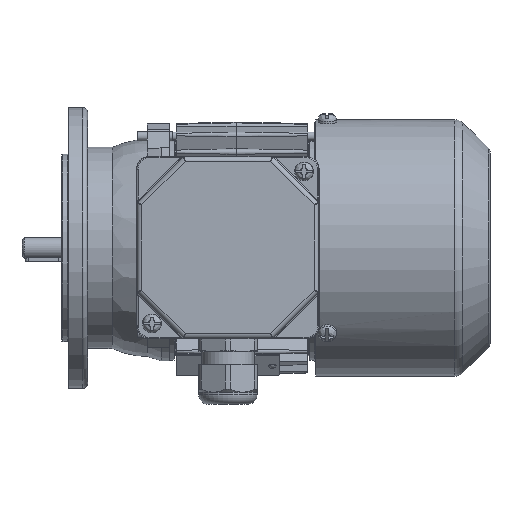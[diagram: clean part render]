
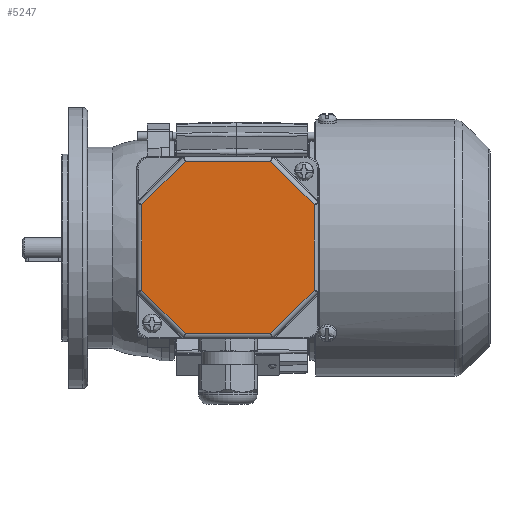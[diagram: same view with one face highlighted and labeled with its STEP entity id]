
A CAD part, top view. The second image highlights one B-rep face of the part: STEP entity #5247.
In plain terms, the highlighted planar face has unit normal (0, 0, 1).
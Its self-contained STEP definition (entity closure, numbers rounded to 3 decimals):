
#5247 = ADVANCED_FACE( '', ( #10523 ), #10524, .T. );
#10523 = FACE_OUTER_BOUND( '', #24995, .T. );
#10524 = PLANE( '', #24996 );
#24995 = EDGE_LOOP( '', ( #39193, #39194, #39195, #39196, #39197, #39198, #39199, #39200 ) );
#24996 = AXIS2_PLACEMENT_3D( '', #39201, #39202, #39203 );
#39193 = ORIENTED_EDGE( '', *, *, #44907, .T. );
#39194 = ORIENTED_EDGE( '', *, *, #42306, .T. );
#39195 = ORIENTED_EDGE( '', *, *, #45458, .T. );
#39196 = ORIENTED_EDGE( '', *, *, #45084, .T. );
#39197 = ORIENTED_EDGE( '', *, *, #44813, .T. );
#39198 = ORIENTED_EDGE( '', *, *, #40587, .T. );
#39199 = ORIENTED_EDGE( '', *, *, #42806, .T. );
#39200 = ORIENTED_EDGE( '', *, *, #40526, .T. );
#39201 = CARTESIAN_POINT( '', ( -39., 39., 12. ) );
#39202 = DIRECTION( '', ( 0., 0., 1. ) );
#39203 = DIRECTION( '', ( 1., 0., 0. ) );
#40526 = EDGE_CURVE( '', #46532, #46530, #46533, .T. );
#40587 = EDGE_CURVE( '', #46594, #46636, #46637, .T. );
#42306 = EDGE_CURVE( '', #49158, #49528, #49529, .T. );
#42806 = EDGE_CURVE( '', #46636, #46532, #50307, .F. );
#44813 = EDGE_CURVE( '', #53175, #46594, #53176, .F. );
#44907 = EDGE_CURVE( '', #46530, #49158, #53285, .F. );
#45084 = EDGE_CURVE( '', #53457, #53175, #53498, .T. );
#45458 = EDGE_CURVE( '', #49528, #53457, #53911, .F. );
#46530 = VERTEX_POINT( '', #55666 );
#46532 = VERTEX_POINT( '', #55668 );
#46533 = LINE( '', #55669, #55670 );
#46594 = VERTEX_POINT( '', #55777 );
#46636 = VERTEX_POINT( '', #55831 );
#46637 = LINE( '', #55832, #55833 );
#49158 = VERTEX_POINT( '', #61403 );
#49528 = VERTEX_POINT( '', #62332 );
#49529 = LINE( '', #62333, #62334 );
#50307 = LINE( '', #64563, #64564 );
#53175 = VERTEX_POINT( '', #71022 );
#53176 = LINE( '', #71023, #71024 );
#53285 = LINE( '', #71295, #71296 );
#53457 = VERTEX_POINT( '', #71766 );
#53498 = LINE( '', #71878, #71879 );
#53911 = LINE( '', #72878, #72879 );
#55666 = CARTESIAN_POINT( '', ( 36.825, -18.255, 12. ) );
#55668 = CARTESIAN_POINT( '', ( 18.255, -36.825, 12. ) );
#55669 = CARTESIAN_POINT( '', ( 37.401, -17.679, 12. ) );
#55670 = VECTOR( '', #74174, 1000. );
#55777 = CARTESIAN_POINT( '', ( -36.825, -18.255, 12. ) );
#55831 = CARTESIAN_POINT( '', ( -18.255, -36.825, 12. ) );
#55832 = CARTESIAN_POINT( '', ( -17.679, -37.401, 12. ) );
#55833 = VECTOR( '', #74253, 1000. );
#61403 = CARTESIAN_POINT( '', ( 36.825, 18.255, 12. ) );
#62332 = CARTESIAN_POINT( '', ( 18.255, 36.825, 12. ) );
#62333 = CARTESIAN_POINT( '', ( 17.679, 37.401, 12. ) );
#62334 = VECTOR( '', #76344, 1000. );
#64563 = CARTESIAN_POINT( '', ( 19.069, -36.825, 12. ) );
#64564 = VECTOR( '', #76963, 1000. );
#71022 = CARTESIAN_POINT( '', ( -36.825, 18.255, 12. ) );
#71023 = CARTESIAN_POINT( '', ( -36.825, -19.069, 12. ) );
#71024 = VECTOR( '', #79485, 1000. );
#71295 = CARTESIAN_POINT( '', ( 36.825, 19.069, 12. ) );
#71296 = VECTOR( '', #79565, 1000. );
#71766 = CARTESIAN_POINT( '', ( -18.255, 36.825, 12. ) );
#71878 = CARTESIAN_POINT( '', ( -37.401, 17.679, 12. ) );
#71879 = VECTOR( '', #79709, 1000. );
#72878 = CARTESIAN_POINT( '', ( -19.069, 36.825, 12. ) );
#72879 = VECTOR( '', #79995, 1000. );
#74174 = DIRECTION( '', ( 0.707, 0.707, 0. ) );
#74253 = DIRECTION( '', ( 0.707, -0.707, 0. ) );
#76344 = DIRECTION( '', ( -0.707, 0.707, 0. ) );
#76963 = DIRECTION( '', ( -1., 0., 0. ) );
#79485 = DIRECTION( '', ( 0., 1., 0. ) );
#79565 = DIRECTION( '', ( 0., -1., 0. ) );
#79709 = DIRECTION( '', ( -0.707, -0.707, 0. ) );
#79995 = DIRECTION( '', ( 1., 0., 0. ) );
